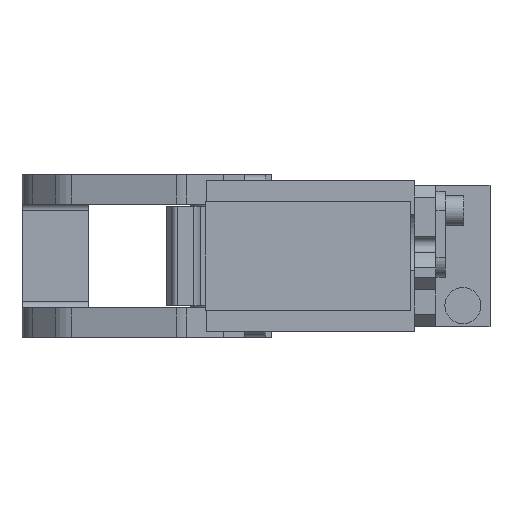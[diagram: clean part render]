
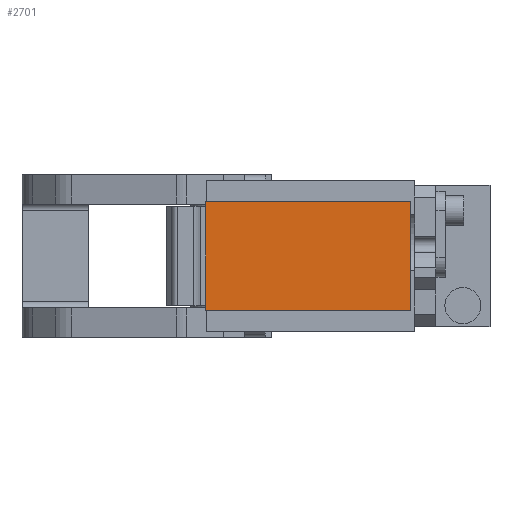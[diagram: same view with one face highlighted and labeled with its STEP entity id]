
A CAD part, front view. The second image highlights one B-rep face of the part: STEP entity #2701.
In plain terms, the highlighted planar face has unit normal (0, -1, 0).
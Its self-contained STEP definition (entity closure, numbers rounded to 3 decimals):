
#742 = VECTOR ( 'NONE', #10747, 1000. ) ;
#881 = DIRECTION ( 'NONE',  ( 0., -1., 0. ) ) ;
#1093 = CARTESIAN_POINT ( 'NONE',  ( -6., -233., -18. ) ) ;
#1439 = CARTESIAN_POINT ( 'NONE',  ( -6., -233., -18. ) ) ;
#1618 = VECTOR ( 'NONE', #2621, 1000. ) ;
#1624 = VERTEX_POINT ( 'NONE', #1093 ) ;
#1670 = CARTESIAN_POINT ( 'NONE',  ( 62., -233., 18. ) ) ;
#1797 = ORIENTED_EDGE ( 'NONE', *, *, #5834, .T. ) ;
#2032 = DIRECTION ( 'NONE',  ( 0., 0., -1. ) ) ;
#2621 = DIRECTION ( 'NONE',  ( 0., 0., -1. ) ) ;
#2701 = ADVANCED_FACE ( 'NONE', ( #12652 ), #8076, .T. ) ;
#2755 = LINE ( 'NONE', #1439, #5745 ) ;
#2869 = EDGE_LOOP ( 'NONE', ( #9948, #12750, #6406, #1797 ) ) ;
#3148 = EDGE_CURVE ( 'NONE', #8313, #1624, #3938, .T. ) ;
#3938 = LINE ( 'NONE', #12139, #1618 ) ;
#5011 = DIRECTION ( 'NONE',  ( 1., 0., 0. ) ) ;
#5561 = VERTEX_POINT ( 'NONE', #10128 ) ;
#5745 = VECTOR ( 'NONE', #5011, 1000. ) ;
#5834 = EDGE_CURVE ( 'NONE', #10442, #8313, #8639, .T. ) ;
#6406 = ORIENTED_EDGE ( 'NONE', *, *, #12812, .T. ) ;
#7932 = CARTESIAN_POINT ( 'NONE',  ( 0., -233., 0. ) ) ;
#8076 = PLANE ( 'NONE',  #12915 ) ;
#8307 = CARTESIAN_POINT ( 'NONE',  ( 62., -233., 18. ) ) ;
#8313 = VERTEX_POINT ( 'NONE', #11649 ) ;
#8639 = LINE ( 'NONE', #9743, #742 ) ;
#9406 = DIRECTION ( 'NONE',  ( 0., 0., 1. ) ) ;
#9592 = VECTOR ( 'NONE', #9406, 1000. ) ;
#9743 = CARTESIAN_POINT ( 'NONE',  ( -6., -233., 18. ) ) ;
#9948 = ORIENTED_EDGE ( 'NONE', *, *, #3148, .T. ) ;
#10128 = CARTESIAN_POINT ( 'NONE',  ( 62., -233., -18. ) ) ;
#10294 = EDGE_CURVE ( 'NONE', #1624, #5561, #2755, .T. ) ;
#10442 = VERTEX_POINT ( 'NONE', #1670 ) ;
#10747 = DIRECTION ( 'NONE',  ( -1., 0., 0. ) ) ;
#11649 = CARTESIAN_POINT ( 'NONE',  ( -6., -233., 18. ) ) ;
#12139 = CARTESIAN_POINT ( 'NONE',  ( -6., -233., 18. ) ) ;
#12652 = FACE_OUTER_BOUND ( 'NONE', #2869, .T. ) ;
#12750 = ORIENTED_EDGE ( 'NONE', *, *, #10294, .T. ) ;
#12812 = EDGE_CURVE ( 'NONE', #5561, #10442, #13104, .T. ) ;
#12915 = AXIS2_PLACEMENT_3D ( 'NONE', #7932, #881, #2032 ) ;
#13104 = LINE ( 'NONE', #8307, #9592 ) ;
